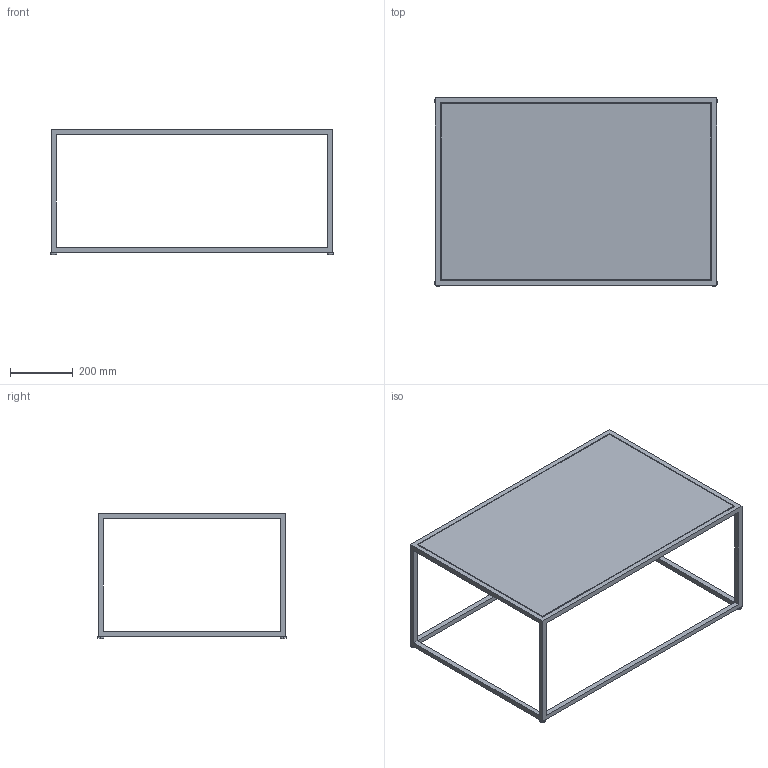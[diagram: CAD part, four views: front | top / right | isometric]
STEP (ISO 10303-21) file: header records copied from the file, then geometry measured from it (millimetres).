
FILE_DESCRIPTION(/* description */ (''),/* implementation_level */ '2;1');
FILE_NAME(/* name */ 'KINOSH~3',/* time_stamp */ '2019-07-24T10:28:14+09:00',/* author */ (''),/* organization */ (''),/* preprocessor_version */ 'ST-DEVELOPER v15',/* originating_system */ '',/* authorisation */ '');
FILE_SCHEMA (('AUTOMOTIVE_DESIGN'));
Length unit declared in the file: millimetre
Products named in the file (1): Document
Bounding box: 904 x 604 x 400 mm (x, y, z)
Volume: 5867427.4 mm3; surface area: 1517724.5 mm2
Topology: 10 solids, 10 shells, 93 faces, 209 edges, 110 vertices
Faces by surface type: plane 66, bspline 27
Entity records: 2698 total; most frequent: CARTESIAN_POINT 1330, ORIENTED_EDGE 370, EDGE_CURVE 185, B_SPLINE_CURVE_WITH_KNOTS 153, VERTEX_POINT 110, EDGE_LOOP 101, ADVANCED_FACE 93, FACE_OUTER_BOUND 93
